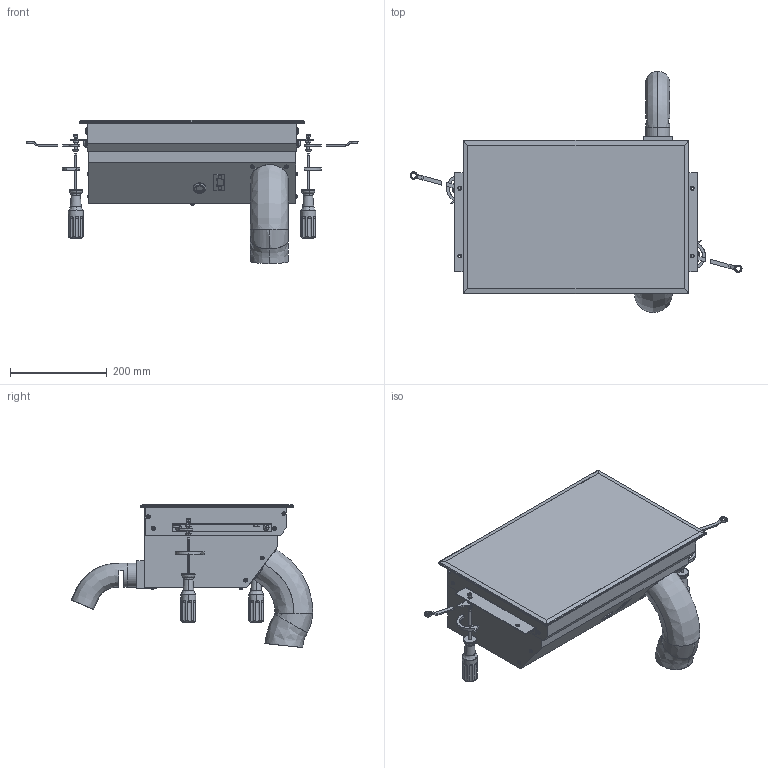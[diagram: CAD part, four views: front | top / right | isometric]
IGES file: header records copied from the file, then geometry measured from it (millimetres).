
Start section: SolidWorks IGES file using analytic representation for surfaces
Global section: file name: Y:\YLEISET\LYHYTAIKAISET SIIRROT\Jussi\Oravan talvivarasto\iges\88_mock_up_20080902.IGS; native system: SolidWorks 2012; preprocessor: SolidWorks 2012; author: janne; date: 141020.110848; units: millimetre
Bounding box: 685.31 x 497.56 x 295.38 mm (x, y, z)
Surface area: 928629.3 mm2 (no closed solid volume)
Topology: 0 solids, 0 shells, 1049 faces, 12927 edges, 12915 vertices
Faces by surface type: bspline 738, revolution 311
